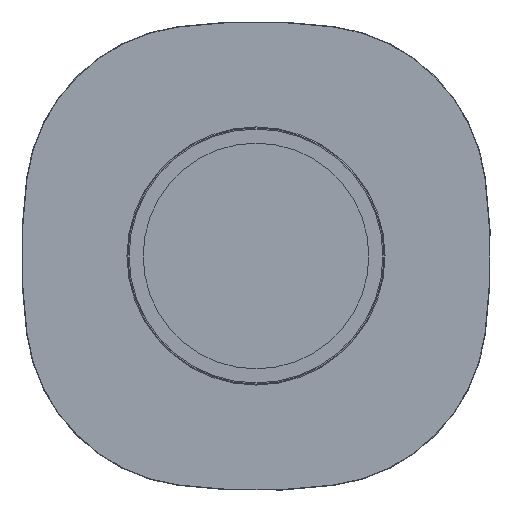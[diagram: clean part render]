
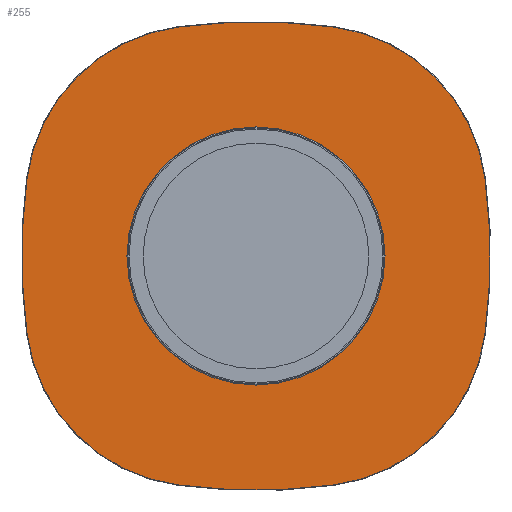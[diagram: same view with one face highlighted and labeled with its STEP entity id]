
A CAD part, front view. The second image highlights one B-rep face of the part: STEP entity #255.
In plain terms, the highlighted planar face has unit normal (0, -1, 0).
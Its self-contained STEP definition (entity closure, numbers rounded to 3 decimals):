
#165=CARTESIAN_POINT('',(0.,722.0,0.));
#166=DIRECTION('',(0.0,1.0,0.0));
#167=DIRECTION('',(-1.0,0.0,0.0));
#168=AXIS2_PLACEMENT_3D('',#165,#166,#167);
#169=PLANE('',#168);
#170=CARTESIAN_POINT('',(167.006,722.0,-487.82));
#171=VERTEX_POINT('',#170);
#172=CARTESIAN_POINT('',(-167.006,722.0,-487.82));
#173=VERTEX_POINT('',#172);
#174=CARTESIAN_POINT('',(0.,722.0,754.));
#175=DIRECTION('',(0.0,1.,0.0));
#176=DIRECTION('',(0.133,0.0,-0.991));
#177=AXIS2_PLACEMENT_3D('',#174,#175,#176);
#178=CIRCLE('',#177,1253.);
#179=EDGE_CURVE('',#171,#173,#178,.T.);
#180=ORIENTED_EDGE('',*,*,#179,.F.);
#181=CARTESIAN_POINT('',(487.82,722.0,-167.006));
#182=VERTEX_POINT('',#181);
#183=CARTESIAN_POINT('',(117.157,722.0,-117.157));
#184=DIRECTION('',(0.0,1.0,0.0));
#185=DIRECTION('',(0.991,0.0,-0.133));
#186=AXIS2_PLACEMENT_3D('',#183,#184,#185);
#187=CIRCLE('',#186,374.0);
#188=EDGE_CURVE('',#182,#171,#187,.T.);
#189=ORIENTED_EDGE('',*,*,#188,.F.);
#190=CARTESIAN_POINT('',(487.82,722.0,167.006));
#191=VERTEX_POINT('',#190);
#192=CARTESIAN_POINT('',(-754.,722.0,0.));
#193=DIRECTION('',(0.0,1.,0.0));
#194=DIRECTION('',(0.991,0.0,0.133));
#195=AXIS2_PLACEMENT_3D('',#192,#193,#194);
#196=CIRCLE('',#195,1253.);
#197=EDGE_CURVE('',#191,#182,#196,.T.);
#198=ORIENTED_EDGE('',*,*,#197,.F.);
#199=CARTESIAN_POINT('',(167.006,722.0,487.82));
#200=VERTEX_POINT('',#199);
#201=CARTESIAN_POINT('',(117.157,722.0,117.157));
#202=DIRECTION('',(0.0,1.0,0.0));
#203=DIRECTION('',(0.133,0.0,0.991));
#204=AXIS2_PLACEMENT_3D('',#201,#202,#203);
#205=CIRCLE('',#204,374.0);
#206=EDGE_CURVE('',#200,#191,#205,.T.);
#207=ORIENTED_EDGE('',*,*,#206,.F.);
#208=CARTESIAN_POINT('',(-167.006,722.0,487.82));
#209=VERTEX_POINT('',#208);
#210=CARTESIAN_POINT('',(0.,722.0,-754.));
#211=DIRECTION('',(0.0,1.,0.0));
#212=DIRECTION('',(-0.133,0.0,0.991));
#213=AXIS2_PLACEMENT_3D('',#210,#211,#212);
#214=CIRCLE('',#213,1253.);
#215=EDGE_CURVE('',#209,#200,#214,.T.);
#216=ORIENTED_EDGE('',*,*,#215,.F.);
#217=CARTESIAN_POINT('',(-487.82,722.0,167.006));
#218=VERTEX_POINT('',#217);
#219=CARTESIAN_POINT('',(-117.157,722.0,117.157));
#220=DIRECTION('',(0.0,1.0,0.0));
#221=DIRECTION('',(-0.991,0.0,0.133));
#222=AXIS2_PLACEMENT_3D('',#219,#220,#221);
#223=CIRCLE('',#222,374.);
#224=EDGE_CURVE('',#218,#209,#223,.T.);
#225=ORIENTED_EDGE('',*,*,#224,.F.);
#226=CARTESIAN_POINT('',(-487.82,722.0,-167.006));
#227=VERTEX_POINT('',#226);
#228=CARTESIAN_POINT('',(754.,722.0,0.));
#229=DIRECTION('',(0.0,1.,0.0));
#230=DIRECTION('',(-0.991,0.0,-0.133));
#231=AXIS2_PLACEMENT_3D('',#228,#229,#230);
#232=CIRCLE('',#231,1253.0);
#233=EDGE_CURVE('',#227,#218,#232,.T.);
#234=ORIENTED_EDGE('',*,*,#233,.F.);
#235=CARTESIAN_POINT('',(-117.157,722.0,-117.157));
#236=DIRECTION('',(0.0,1.0,0.0));
#237=DIRECTION('',(-0.133,0.0,-0.991));
#238=AXIS2_PLACEMENT_3D('',#235,#236,#237);
#239=CIRCLE('',#238,374.0);
#240=EDGE_CURVE('',#173,#227,#239,.T.);
#241=ORIENTED_EDGE('',*,*,#240,.F.);
#242=EDGE_LOOP('',(#180,#189,#198,#207,#216,#225,#234,#241));
#243=FACE_OUTER_BOUND('',#242,.T.);
#244=CARTESIAN_POINT('',(165.,722.0,0.));
#245=VERTEX_POINT('',#244);
#246=CARTESIAN_POINT('',(0.,722.0,0.));
#247=DIRECTION('',(0.0,-1.0,0.0));
#248=DIRECTION('',(-1.0,0.0,0.0));
#249=AXIS2_PLACEMENT_3D('',#246,#247,#248);
#250=CIRCLE('',#249,165.0);
#251=EDGE_CURVE('',#245,#245,#250,.T.);
#252=ORIENTED_EDGE('',*,*,#251,.F.);
#253=EDGE_LOOP('',(#252));
#254=FACE_BOUND('',#253,.T.);
#255=ADVANCED_FACE('',(#243,#254),#169,.F.);
